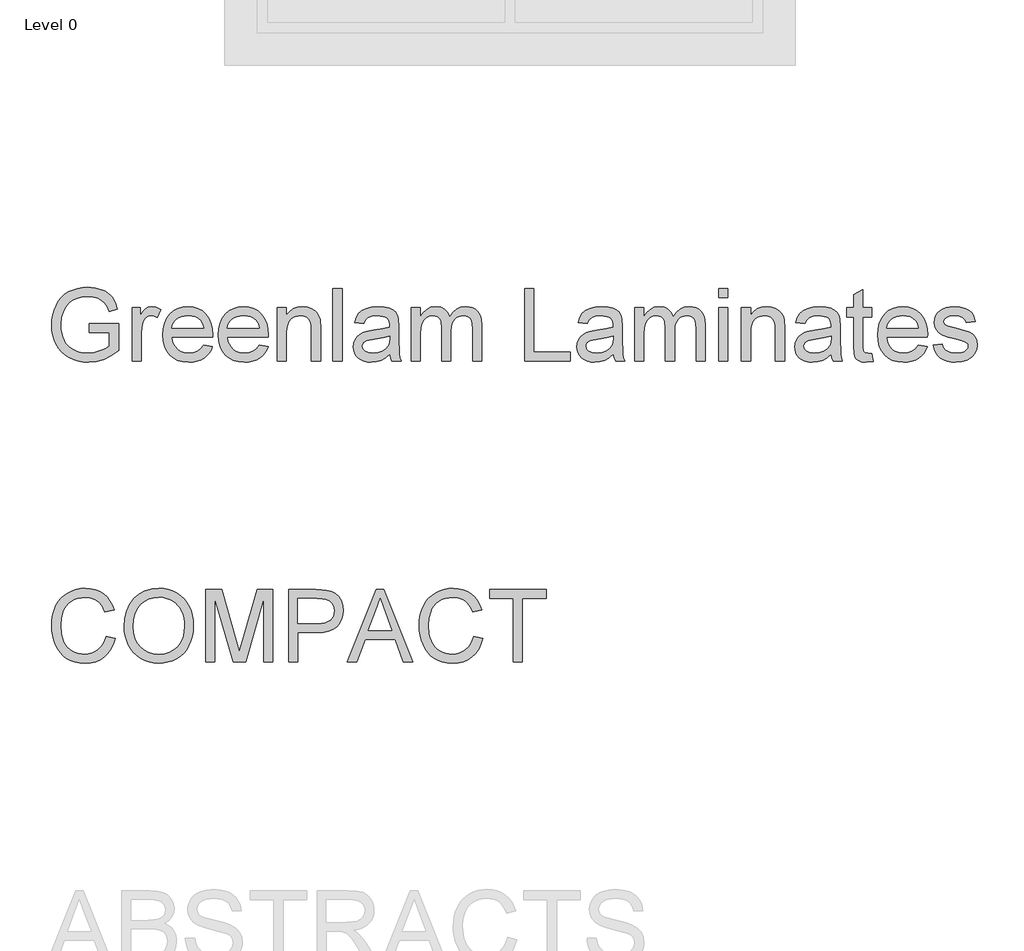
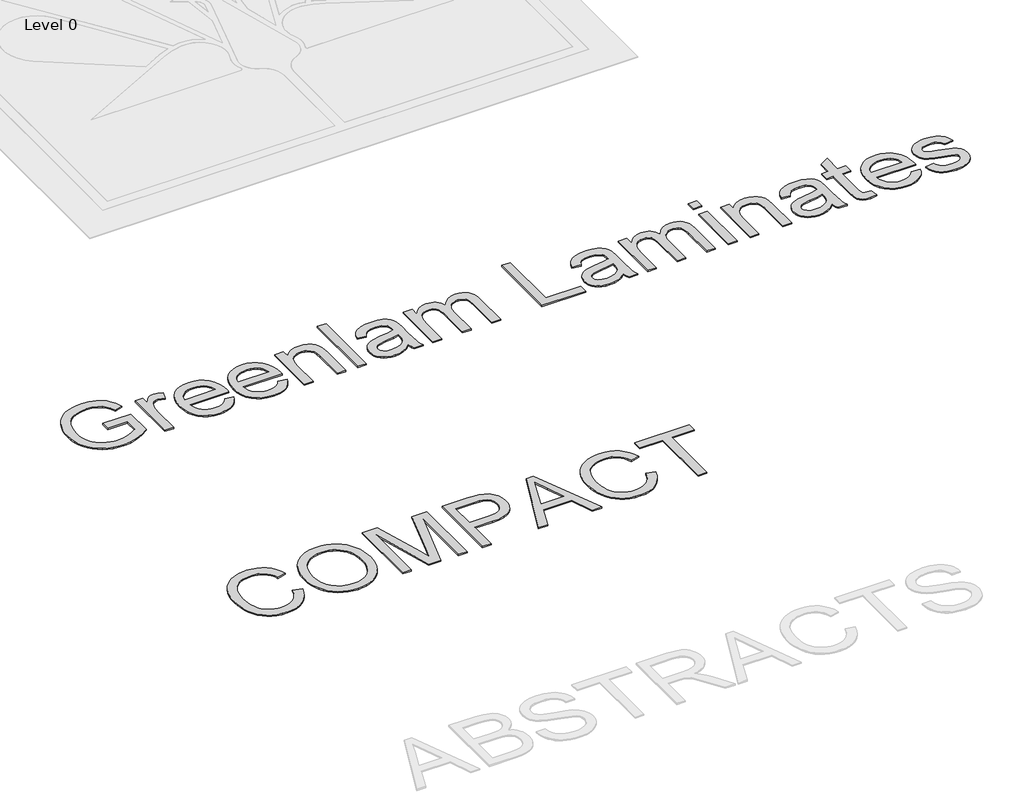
# One storey, part 8 of 8: 2 proxies.
"""IFC4 building model written with IfcOpenShell, lengths in millimetres."""

from ifc_helpers import new_model, si_unit, origin, origin_with_axes, place, context, project, spatial, polyline, outline, extrude, element, save

model = new_model("IFC4")

# Units and contexts
model_context = context("Model", 3, world=origin())
ifc_project = project(units=[si_unit("LENGTHUNIT", "METRE", prefix="MILLI")], contexts=[model_context])

# Site, building, storey
site = spatial("IfcSite", under=ifc_project)
building = spatial("IfcBuilding", under=site)
storey = spatial("IfcBuildingStorey", under=building, Name="Level 0", Elevation=0.0)

# Proxies
placement = place(None, origin())
element("IfcBuildingElementProxy", 1, Name="600mm Arial", ObjectType="600mm Arial", at=placement, inside=storey, context=model_context, shape_type="SweptSolid", body=[
    extrude(outline(polyline([(-10594.9298129, 2995.5724296), (-10594.9298129, 3070.9146622), (-10350.067557, 3070.9146622), (-10350.067557, 2845.6237284), (-10409.5724697, 2804.2370039), (-10470.9535806, 2774.5489269), (-10534.0637368, 2756.6698619), (-10598.7557857, 2750.7101736), (-10642.0325039, 2753.0784139), (-10683.2766741, 2760.183135), (-10722.4882962, 2772.0243367), (-10759.6673704, 2788.6020191), (-10793.6136815, 2809.6678618), (-10823.1270146, 2834.9735446), (-10848.2073696, 2864.5190673), (-10868.8547466, 2898.3044301), (-10884.9817735, 2935.2489794), (-10896.5010785, 2974.2720621), (-10903.4126615, 3015.373678), (-10905.7165225, 3058.5538272), (-10903.4218585, 3101.7385749), (-10896.5378667, 3143.4425975), (-10885.064547, 3183.6658952), (-10869.0018994, 3222.4084678), (-10848.6350324, 3257.9688612), (-10824.2490546, 3288.645621), (-10795.8439661, 3314.4387474), (-10763.4197667, 3335.3482403), (-10727.6800309, 3351.507457), (-10689.3283329, 3363.0497546), (-10648.3646727, 3369.9751331), (-10604.7890504, 3372.2835926), (-10542.7273578, 3366.9309096), (-10486.9196592, 3350.8728605), (-10462.0002525, 3339.1190308), (-10439.9227343, 3325.2682737), (-10420.6871045, 3309.3205892), (-10404.293363, 3291.2759773), (-10377.9346181, 3247.2588966), (-10358.749572, 3191.5799566), (-10428.2056927, 3172.0086345), (-10443.7119188, 3211.7214959), (-10462.5658711, 3241.6854844), (-10487.5082704, 3264.2734389), (-10521.2798375, 3281.8581982), (-10561.5445219, 3293.1705696), (-10605.9662728, 3296.94136), (-10657.9663928, 3292.876264), (-10702.4249319, 3280.6809758), (-10739.1763433, 3261.8822059), (-10768.0550799, 3238.0066644), (-10790.2199701, 3210.2867561), (-10806.8298422, 3179.9548856), (-10824.4881779, 3123.0803291), (-10830.3742899, 3061.6440359), (-10828.6038578, 3024.0235034), (-10823.2925615, 2989.5943472), (-10814.4404009, 2958.3565672), (-10802.0473762, 2930.3101636), (-10786.2744357, 2905.5609024), (-10767.2825277, 2884.2145496), (-10745.0716522, 2866.2711053), (-10719.6418093, 2851.7305695), (-10692.1840169, 2840.496373), (-10663.8892929, 2832.471947), (-10634.7576374, 2827.6572914), (-10604.7890504, 2826.0524062), (-10552.6049894, 2830.8900544), (-10501.7085154, 2845.4029992), (-10457.5074936, 2865.3973856), (-10425.4097896, 2886.679359), (-10425.4097896, 2995.5724296), (-10594.9298129, 2995.5724296)])), origin_with_axes(), (0.0, 0.0, 1.0), 10.0),
    extrude(outline(polyline([(-10237.054208, 2760.1279527), (-10237.054208, 3202.7635693), (-10171.1297545, 3202.7635693), (-10171.1297545, 3137.2805741), (-10146.7759664, 3175.245996), (-10124.3351647, 3197.6132213), (-10101.8207866, 3208.5393166), (-10077.2462693, 3212.1813483), (-10039.7223058, 3206.3688128), (-10001.6097311, 3188.9312062), (-10026.7728596, 3121.3880719), (-10053.2603632, 3132.9763548), (-10079.7478669, 3136.8391157), (-10102.2438509, 3133.1235076), (-10122.3486019, 3121.9766831), (-10138.590592, 3104.244771), (-10149.4982932, 3080.7738997), (-10158.6585549, 3038.6881994), (-10161.7119754, 2992.7765264), (-10161.7119754, 2760.1279527), (-10237.054208, 2760.1279527)])), origin_with_axes(), (0.0, 0.0, 1.0), 10.0),
    extrude(outline(polyline([(-9644.617043, 2891.9768597), (-9570.7463384, 2882.5590807), (-9582.0725053, 2852.9721712), (-9597.3626007, 2826.8985348), (-9616.6166246, 2804.3381714), (-9639.8345771, 2785.2910811), (-9666.7773347, 2770.1619341), (-9697.2057742, 2759.3554005), (-9731.1198956, 2752.8714803), (-9768.519699, 2750.7101736), (-9815.2683035, 2754.4395773), (-9856.9217424, 2765.6277885), (-9893.4800157, 2784.2748071), (-9924.9431233, 2810.3806332), (-9950.2442075, 2843.2186998), (-9968.3164106, 2882.06244), (-9979.1597324, 2926.9118537), (-9982.774173, 2977.766941), (-9979.1229442, 3030.3464752), (-9968.1692578, 3076.6904095), (-9949.9131138, 3116.798744), (-9924.3545121, 3150.6714788), (-9892.9741779, 3177.5820467), (-9857.2528362, 3196.8038809), (-9817.1904869, 3208.3369815), (-9772.7871301, 3212.1813483), (-9729.8139146, 3208.3461785), (-9690.9517803, 3196.8406691), (-9656.2007273, 3177.6648201), (-9625.5607557, 3150.8186315), (-9600.5493785, 3117.0194732), (-9582.6841091, 3076.9847151), (-9571.9649475, 3030.7143572), (-9568.3918936, 2978.2083994), (-9568.833352, 2957.9013133), (-9907.4319404, 2957.9013133), (-9903.0679402, 2927.8361572), (-9894.3905236, 2901.5050034), (-9881.3996907, 2878.9078519), (-9864.0954413, 2860.0447026), (-9843.4342688, 2845.1730729), (-9820.3726662, 2834.5504803), (-9794.9106336, 2828.1769247), (-9767.048171, 2826.0524062), (-9726.9490335, 2829.9887436), (-9693.1774664, 2841.7977556), (-9665.7334695, 2862.2152063), (-9644.617043, 2891.9768597)]), holes=[polyline([(-9907.4319404, 3033.2435459), (-9643.7341262, 3033.2435459), (-9653.9244575, 3073.0483778), (-9662.689246, 3088.7017567), (-9673.9004498, 3101.5224442), (-9694.4466593, 3116.973488), (-9717.82556, 3128.0099478), (-9744.0371522, 3134.6318238), (-9773.0814357, 3136.8391157), (-9799.5735379, 3135.0778807), (-9823.8675452, 3129.7941755), (-9845.9634575, 3120.9880003), (-9865.8612749, 3108.6593549), (-9882.558519, 3093.3784565), (-9895.0527112, 3075.7155222), (-9903.3438517, 3055.670552), (-9907.4319404, 3033.2435459)])]), origin_with_axes(), (0.0, 0.0, 1.0), 10.0),
    extrude(outline(polyline([(-9183.1458683, 2891.9768597), (-9109.2751636, 2882.5590807), (-9120.6013305, 2852.9721712), (-9135.891426, 2826.8985348), (-9155.1454499, 2804.3381714), (-9178.3634023, 2785.2910811), (-9205.3061599, 2770.1619341), (-9235.7345995, 2759.3554005), (-9269.6487209, 2752.8714803), (-9307.0485242, 2750.7101736), (-9353.7971288, 2754.4395773), (-9395.4505677, 2765.6277885), (-9432.0088409, 2784.2748071), (-9463.4719486, 2810.3806332), (-9488.7730328, 2843.2186998), (-9506.8452358, 2882.06244), (-9517.6885576, 2926.9118537), (-9521.3029982, 2977.766941), (-9517.6517694, 3030.3464752), (-9506.698083, 3076.6904095), (-9488.441939, 3116.798744), (-9462.8833374, 3150.6714788), (-9431.5030032, 3177.5820467), (-9395.7816615, 3196.8038809), (-9355.7193122, 3208.3369815), (-9311.3159554, 3212.1813483), (-9268.3427398, 3208.3461785), (-9229.4806055, 3196.8406691), (-9194.7295526, 3177.6648201), (-9164.0895809, 3150.8186315), (-9139.0782038, 3117.0194732), (-9121.2129344, 3076.9847151), (-9110.4937727, 3030.7143572), (-9106.9207189, 2978.2083994), (-9107.3621772, 2957.9013133), (-9445.9607656, 2957.9013133), (-9441.5967654, 2927.8361572), (-9432.9193489, 2901.5050034), (-9419.9285159, 2878.9078519), (-9402.6242666, 2860.0447026), (-9381.963094, 2845.1730729), (-9358.9014915, 2834.5504803), (-9333.4394589, 2828.1769247), (-9305.5769962, 2826.0524062), (-9265.4778588, 2829.9887436), (-9231.7062916, 2841.7977556), (-9204.2622948, 2862.2152063), (-9183.1458683, 2891.9768597)]), holes=[polyline([(-9445.9607656, 3033.2435459), (-9182.2629515, 3033.2435459), (-9192.4532827, 3073.0483778), (-9201.2180713, 3088.7017567), (-9212.4292751, 3101.5224442), (-9232.9754845, 3116.973488), (-9256.3543853, 3128.0099478), (-9282.5659775, 3134.6318238), (-9311.610261, 3136.8391157), (-9338.1023631, 3135.0778807), (-9362.3963704, 3129.7941755), (-9384.4922827, 3120.9880003), (-9404.3901002, 3108.6593549), (-9421.0873442, 3093.3784565), (-9433.5815365, 3075.7155222), (-9441.8726769, 3055.670552), (-9445.9607656, 3033.2435459)])]), origin_with_axes(), (0.0, 0.0, 1.0), 10.0),
    extrude(outline(polyline([(-9031.5784862, 2760.1279527), (-9031.5784862, 3202.7635693), (-8956.2362536, 3202.7635693), (-8956.2362536, 3140.9593941), (-8930.0614497, 3172.1189991), (-8898.6259332, 3194.3758598), (-8861.9297042, 3207.7299762), (-8819.9727626, 3212.1813483), (-8782.8350752, 3208.5944989), (-8748.8243847, 3197.8339505), (-8720.4606829, 3181.2424725), (-8700.2639614, 3160.1628342), (-8686.5603571, 3134.6502179), (-8677.6760069, 3104.7598058), (-8673.7028813, 3031.9191707), (-8673.7028813, 2760.1279527), (-8749.0451139, 2760.1279527), (-8749.0451139, 3021.7656276), (-8751.2156177, 3060.7243309), (-8757.727129, 3088.4258452), (-8769.7384762, 3108.2730788), (-8788.4084874, 3123.6689403), (-8812.3392112, 3133.5465719), (-8840.132696, 3136.8391157), (-8863.0103575, 3134.9905087), (-8884.2601413, 3129.4446876), (-8903.8820472, 3120.2016525), (-8921.8760753, 3107.2614033), (-8936.9086533, 3089.1524121), (-8947.646209, 3064.4031509), (-8954.0887425, 3033.0136196), (-8956.2362536, 2994.9838184), (-8956.2362536, 2760.1279527), (-9031.5784862, 2760.1279527)])), origin_with_axes(), (0.0, 0.0, 1.0), 10.0),
    extrude(outline(polyline([(-8570.1073115, 2760.1279527), (-8570.1073115, 3362.8658136), (-8494.7650789, 3362.8658136), (-8494.7650789, 2760.1279527), (-8570.1073115, 2760.1279527)])), origin_with_axes(), (0.0, 0.0, 1.0), 10.0),
    extrude(outline(polyline([(-8099.2183577, 2816.6346271), (-8135.2156109, 2785.7693277), (-8172.2797219, 2765.5726062), (-8211.2568193, 2754.4257817), (-8252.9930316, 2750.7101736), (-8286.5392711, 2752.9450567), (-8315.9560351, 2759.6497061), (-8341.2433238, 2770.8241217), (-8362.401137, 2786.4683035), (-8379.1075781, 2805.5889702), (-8391.0407503, 2827.1928404), (-8398.2006537, 2851.279914), (-8400.5872881, 2877.8501911), (-8396.9820446, 2909.0833725), (-8386.1663139, 2937.4470743), (-8369.4828654, 2961.727286), (-8348.2744684, 2980.709997), (-8323.3504632, 2995.0573948), (-8295.5201903, 3005.4316671), (-8230.3315007, 3016.7624325), (-8153.297011, 3028.6818092), (-8099.6598161, 3042.661325), (-8099.2183577, 3059.4367439), (-8104.4054938, 3093.0611583), (-8110.889414, 3105.5139638), (-8119.9669022, 3115.0605016), (-8135.6570693, 3124.5886453), (-8154.7685389, 3131.3944622), (-8203.2553859, 3136.8391157), (-8248.1369893, 3133.2154781), (-8279.4805353, 3122.3445651), (-8300.8544792, 3102.2398141), (-8315.8272764, 3070.9146622), (-8391.169509, 3080.3324413), (-8378.0913041, 3121.5352247), (-8358.5751643, 3153.9088403), (-8330.8000736, 3178.6672986), (-8292.9450163, 3197.0246101), (-8246.6470672, 3208.3921638), (-8193.5433012, 3212.1813483), (-8142.610039, 3208.8336222), (-8102.23499, 3198.7904437), (-8071.7927549, 3183.6888878), (-8050.6579343, 3165.1660294), (-8036.6416303, 3142.2653752), (-8027.554945, 3114.030432), (-8023.8761251, 3048.1059785), (-8023.8761251, 2954.3696461), (-8020.0501523, 2823.4772322), (-8014.3847696, 2791.1220108), (-8005.0405669, 2760.1279527), (-8080.3827995, 2760.1279527), (-8092.449329, 2786.3211507), (-8099.2183577, 2816.6346271)]), holes=[polyline([(-8099.2183577, 2967.3190924), (-8149.8389202, 2954.7743163), (-8220.7665689, 2944.2161031), (-8285.5873764, 2932.0024208), (-8302.4547659, 2923.6514995), (-8314.9443596, 2912.1367931), (-8322.6698815, 2898.3412183), (-8325.2450555, 2883.1476919), (-8319.6348551, 2860.7436784), (-8302.8042538, 2842.3863668), (-8275.1211337, 2830.1358964), (-8236.9533767, 2826.0524062), (-8196.4863572, 2830.5589606), (-8160.7282273, 2844.078624), (-8131.739126, 2863.999434), (-8111.5791927, 2887.7094286), (-8102.6396602, 2912.1367931), (-8099.6598161, 2945.9819366), (-8099.2183577, 2967.3190924)])]), origin_with_axes(), (0.0, 0.0, 1.0), 10.0),
    extrude(outline(polyline([(-7920.2805552, 2760.1279527), (-7920.2805552, 3202.7635693), (-7844.9383226, 3202.7635693), (-7844.9383226, 3129.9229342), (-7822.2767917, 3163.3818017), (-7793.1405377, 3189.5933938), (-7758.5228419, 3206.5343597), (-7719.4169858, 3212.1813483), (-7677.5152266, 3206.4239951), (-7659.6821469, 3199.2273036), (-7643.9276004, 3189.1519354), (-7618.8380484, 3161.5056035), (-7602.4305114, 3124.6254335), (-7574.9681204, 3162.9311462), (-7543.6429685, 3190.2923696), (-7508.4550557, 3206.7091037), (-7469.4043819, 3212.1813483), (-7439.2426568, 3209.9050785), (-7412.7689488, 3203.076269), (-7389.9832577, 3191.6949197), (-7370.8855836, 3175.7610308), (-7355.7886262, 3155.0906612), (-7345.0050853, 3129.4998699), (-7338.5349607, 3098.988657), (-7336.3782525, 3063.5570223), (-7336.3782525, 2760.1279527), (-7411.7204851, 2760.1279527), (-7411.7204851, 3031.1834067), (-7413.4679246, 3068.7625525), (-7418.710243, 3094.0912279), (-7428.5326923, 3111.436864), (-7444.0205243, 3125.0668919), (-7463.9413343, 3133.8960598), (-7487.0627177, 3136.8391157), (-7508.413669, 3134.9537205), (-7527.8792251, 3129.2975348), (-7545.4593859, 3119.8705587), (-7561.1541515, 3106.6727921), (-7574.062211, 3089.317959), (-7583.2822535, 3067.4197832), (-7588.814279, 3040.9782648), (-7590.6582875, 3009.9934038), (-7590.6582875, 2760.1279527), (-7666.0005201, 2760.1279527), (-7666.0005201, 3039.5711162), (-7670.3599218, 3082.1718512), (-7675.8091738, 3098.8920879), (-7683.4381267, 3112.5589041), (-7693.5502831, 3123.1814967), (-7706.4491455, 3130.7690628), (-7722.1347141, 3135.3216025), (-7740.6069888, 3136.8391157), (-7769.6328782, 3132.7924138), (-7796.3778992, 3120.6523079), (-7818.4508189, 3100.7131038), (-7833.4604044, 3073.269107), (-7842.068843, 3035.1933205), (-7844.9383226, 2983.3587473), (-7844.9383226, 2760.1279527), (-7920.2805552, 2760.1279527)])), origin_with_axes(), (0.0, 0.0, 1.0), 10.0),
    extrude(outline(polyline([(-6978.5026476, 2760.1279527), (-6978.5026476, 3362.8658136), (-6903.1604149, 3362.8658136), (-6903.1604149, 2835.4701853), (-6601.7914845, 2835.4701853), (-6601.7914845, 2760.1279527), (-6978.5026476, 2760.1279527)])), origin_with_axes(), (0.0, 0.0, 1.0), 10.0),
    extrude(outline(polyline([(-6243.9158796, 2816.6346271), (-6279.9131328, 2785.7693277), (-6316.9772438, 2765.5726062), (-6355.9543412, 2754.4257817), (-6397.6905536, 2750.7101736), (-6431.236793, 2752.9450567), (-6460.653557, 2759.6497061), (-6485.9408457, 2770.8241217), (-6507.0986589, 2786.4683035), (-6523.8051, 2805.5889702), (-6535.7382723, 2827.1928404), (-6542.8981756, 2851.279914), (-6545.28481, 2877.8501911), (-6541.6795665, 2909.0833725), (-6530.8638358, 2937.4470743), (-6514.1803873, 2961.727286), (-6492.9719903, 2980.709997), (-6468.0479852, 2995.0573948), (-6440.2177122, 3005.4316671), (-6375.0290227, 3016.7624325), (-6297.9945329, 3028.6818092), (-6244.357338, 3042.661325), (-6243.9158796, 3059.4367439), (-6249.1030157, 3093.0611583), (-6255.5869359, 3105.5139638), (-6264.6644241, 3115.0605016), (-6280.3545912, 3124.5886453), (-6299.4660609, 3131.3944622), (-6347.9529078, 3136.8391157), (-6392.8345112, 3133.2154781), (-6424.1780572, 3122.3445651), (-6445.5520011, 3102.2398141), (-6460.5247984, 3070.9146622), (-6535.867031, 3080.3324413), (-6522.788826, 3121.5352247), (-6503.2726862, 3153.9088403), (-6475.4975956, 3178.6672986), (-6437.6425383, 3197.0246101), (-6391.3445892, 3208.3921638), (-6338.2408232, 3212.1813483), (-6287.3075609, 3208.8336222), (-6246.932512, 3198.7904437), (-6216.4902768, 3183.6888878), (-6195.3554562, 3165.1660294), (-6181.3391522, 3142.2653752), (-6172.2524669, 3114.030432), (-6168.573647, 3048.1059785), (-6168.573647, 2954.3696461), (-6164.7476742, 2823.4772322), (-6159.0822915, 2791.1220108), (-6149.7380888, 2760.1279527), (-6225.0803214, 2760.1279527), (-6237.1468509, 2786.3211507), (-6243.9158796, 2816.6346271)]), holes=[polyline([(-6243.9158796, 2967.3190924), (-6294.5364421, 2954.7743163), (-6365.4640908, 2944.2161031), (-6430.2848983, 2932.0024208), (-6447.1522878, 2923.6514995), (-6459.6418816, 2912.1367931), (-6467.3674035, 2898.3412183), (-6469.9425774, 2883.1476919), (-6464.332377, 2860.7436784), (-6447.5017757, 2842.3863668), (-6419.8186556, 2830.1358964), (-6381.6508986, 2826.0524062), (-6341.1838791, 2830.5589606), (-6305.4257492, 2844.078624), (-6276.436648, 2863.999434), (-6256.2767146, 2887.7094286), (-6247.3371821, 2912.1367931), (-6244.357338, 2945.9819366), (-6243.9158796, 2967.3190924)])]), origin_with_axes(), (0.0, 0.0, 1.0), 10.0),
    extrude(outline(polyline([(-6064.9780771, 2760.1279527), (-6064.9780771, 3202.7635693), (-5989.6358445, 3202.7635693), (-5989.6358445, 3129.9229342), (-5966.9743136, 3163.3818017), (-5937.8380596, 3189.5933938), (-5903.2203639, 3206.5343597), (-5864.1145078, 3212.1813483), (-5822.2127485, 3206.4239951), (-5804.3796688, 3199.2273036), (-5788.6251224, 3189.1519354), (-5763.5355703, 3161.5056035), (-5747.1280333, 3124.6254335), (-5719.6656424, 3162.9311462), (-5688.3404905, 3190.2923696), (-5653.1525776, 3206.7091037), (-5614.1019038, 3212.1813483), (-5583.9401788, 3209.9050785), (-5557.4664707, 3203.076269), (-5534.6807796, 3191.6949197), (-5515.5831055, 3175.7610308), (-5500.4861482, 3155.0906612), (-5489.7026072, 3129.4998699), (-5483.2324826, 3098.988657), (-5481.0757744, 3063.5570223), (-5481.0757744, 2760.1279527), (-5556.418007, 2760.1279527), (-5556.418007, 3031.1834067), (-5558.1654465, 3068.7625525), (-5563.4077649, 3094.0912279), (-5573.2302142, 3111.436864), (-5588.7180462, 3125.0668919), (-5608.6388562, 3133.8960598), (-5631.7602396, 3136.8391157), (-5653.1111909, 3134.9537205), (-5672.576747, 3129.2975348), (-5690.1569078, 3119.8705587), (-5705.8516734, 3106.6727921), (-5718.759733, 3089.317959), (-5727.9797755, 3067.4197832), (-5733.511801, 3040.9782648), (-5735.3558095, 3009.9934038), (-5735.3558095, 2760.1279527), (-5810.6980421, 2760.1279527), (-5810.6980421, 3039.5711162), (-5815.0574437, 3082.1718512), (-5820.5066958, 3098.8920879), (-5828.1356486, 3112.5589041), (-5838.247805, 3123.1814967), (-5851.1466674, 3130.7690628), (-5866.832236, 3135.3216025), (-5885.3045107, 3136.8391157), (-5914.3304001, 3132.7924138), (-5941.0754212, 3120.6523079), (-5963.1483409, 3100.7131038), (-5978.1579263, 3073.269107), (-5986.766365, 3035.1933205), (-5989.6358445, 2983.3587473), (-5989.6358445, 2760.1279527), (-6064.9780771, 2760.1279527)])), origin_with_axes(), (0.0, 0.0, 1.0), 10.0),
    extrude(outline(polyline([(-5368.0624255, 3287.523581), (-5368.0624255, 3362.8658136), (-5292.7201929, 3362.8658136), (-5292.7201929, 3287.523581), (-5368.0624255, 3287.523581)])), origin_with_axes(), (0.0, 0.0, 1.0), 10.0),
    extrude(outline(polyline([(-5368.0624255, 2760.1279527), (-5368.0624255, 3202.7635693), (-5292.7201929, 3202.7635693), (-5292.7201929, 2760.1279527), (-5368.0624255, 2760.1279527)])), origin_with_axes(), (0.0, 0.0, 1.0), 10.0),
    extrude(outline(polyline([(-5179.7068439, 2760.1279527), (-5179.7068439, 3202.7635693), (-5104.3646113, 3202.7635693), (-5104.3646113, 3140.9593941), (-5078.1898074, 3172.1189991), (-5046.7542909, 3194.3758598), (-5010.0580619, 3207.7299762), (-4968.1011203, 3212.1813483), (-4930.9634329, 3208.5944989), (-4896.9527424, 3197.8339505), (-4868.5890406, 3181.2424725), (-4848.3923191, 3160.1628342), (-4834.6887148, 3134.6502179), (-4825.8043646, 3104.7598058), (-4821.831239, 3031.9191707), (-4821.831239, 2760.1279527), (-4897.1734716, 2760.1279527), (-4897.1734716, 3021.7656276), (-4899.3439754, 3060.7243309), (-4905.8554867, 3088.4258452), (-4917.8668339, 3108.2730788), (-4936.5368451, 3123.6689403), (-4960.4675689, 3133.5465719), (-4988.2610537, 3136.8391157), (-5011.1387152, 3134.9905087), (-5032.388499, 3129.4446876), (-5052.0104049, 3120.2016525), (-5070.004433, 3107.2614033), (-5085.037011, 3089.1524121), (-5095.7745667, 3064.4031509), (-5102.2171002, 3033.0136196), (-5104.3646113, 2994.9838184), (-5104.3646113, 2760.1279527), (-5179.7068439, 2760.1279527)])), origin_with_axes(), (0.0, 0.0, 1.0), 10.0),
    extrude(outline(polyline([(-4435.7022969, 2816.6346271), (-4471.6995501, 2785.7693277), (-4508.7636611, 2765.5726062), (-4547.7407585, 2754.4257817), (-4589.4769709, 2750.7101736), (-4623.0232103, 2752.9450567), (-4652.4399744, 2759.6497061), (-4677.727263, 2770.8241217), (-4698.8850762, 2786.4683035), (-4715.5915174, 2805.5889702), (-4727.5246896, 2827.1928404), (-4734.6845929, 2851.279914), (-4737.0712273, 2877.8501911), (-4733.4659838, 2909.0833725), (-4722.6502531, 2937.4470743), (-4705.9668047, 2961.727286), (-4684.7584076, 2980.709997), (-4659.8344025, 2995.0573948), (-4632.0041295, 3005.4316671), (-4566.81544, 3016.7624325), (-4489.7809502, 3028.6818092), (-4436.1437553, 3042.661325), (-4435.7022969, 3059.4367439), (-4440.889433, 3093.0611583), (-4447.3733532, 3105.5139638), (-4456.4508414, 3115.0605016), (-4472.1410085, 3124.5886453), (-4491.2524782, 3131.3944622), (-4539.7393251, 3136.8391157), (-4584.6209285, 3133.2154781), (-4615.9644745, 3122.3445651), (-4637.3384185, 3102.2398141), (-4652.3112157, 3070.9146622), (-4727.6534483, 3080.3324413), (-4714.5752433, 3121.5352247), (-4695.0591035, 3153.9088403), (-4667.2840129, 3178.6672986), (-4629.4289556, 3197.0246101), (-4583.1310065, 3208.3921638), (-4530.0272405, 3212.1813483), (-4479.0939782, 3208.8336222), (-4438.7189293, 3198.7904437), (-4408.2766942, 3183.6888878), (-4387.1418735, 3165.1660294), (-4373.1255695, 3142.2653752), (-4364.0388842, 3114.030432), (-4360.3600643, 3048.1059785), (-4360.3600643, 2954.3696461), (-4356.5340915, 2823.4772322), (-4350.8687088, 2791.1220108), (-4341.5245061, 2760.1279527), (-4416.8667387, 2760.1279527), (-4428.9332682, 2786.3211507), (-4435.7022969, 2816.6346271)]), holes=[polyline([(-4435.7022969, 2967.3190924), (-4486.3228594, 2954.7743163), (-4557.2505081, 2944.2161031), (-4622.0713157, 2932.0024208), (-4638.9387051, 2923.6514995), (-4651.4282989, 2912.1367931), (-4659.1538208, 2898.3412183), (-4661.7289947, 2883.1476919), (-4656.1187943, 2860.7436784), (-4639.288193, 2842.3863668), (-4611.6050729, 2830.1358964), (-4573.4373159, 2826.0524062), (-4532.9702964, 2830.5589606), (-4497.2121665, 2844.078624), (-4468.2230653, 2863.999434), (-4448.0631319, 2887.7094286), (-4439.1235995, 2912.1367931), (-4436.1437553, 2945.9819366), (-4435.7022969, 2967.3190924)])]), origin_with_axes(), (0.0, 0.0, 1.0), 10.0),
    extrude(outline(polyline([(-4096.6622501, 2822.9621974), (-4087.2444711, 2757.9206607), (-4143.6039927, 2750.7101736), (-4179.7667929, 2753.8371706), (-4206.7325431, 2763.2181614), (-4225.7888304, 2777.6759238), (-4238.2232419, 2796.0332354), (-4245.065847, 2827.5607224), (-4247.3467154, 2881.5290111), (-4247.3467154, 3127.4213367), (-4303.8533898, 3127.4213367), (-4303.8533898, 3202.7635693), (-4247.3467154, 3202.7635693), (-4247.3467154, 3310.3322647), (-4172.0044828, 3354.6252569), (-4172.0044828, 3202.7635693), (-4096.6622501, 3202.7635693), (-4096.6622501, 3127.4213367), (-4172.0044828, 3127.4213367), (-4172.0044828, 2883.7363031), (-4168.0313572, 2844.8879644), (-4155.1554874, 2831.1291777), (-4144.2845744, 2827.3215991), (-4129.4773241, 2826.0524062), (-4096.6622501, 2822.9621974)])), origin_with_axes(), (0.0, 0.0, 1.0), 10.0),
    extrude(outline(polyline([(-3711.4162248, 2891.9768597), (-3637.5455202, 2882.5590807), (-3648.8716871, 2852.9721712), (-3664.1617825, 2826.8985348), (-3683.4158064, 2804.3381714), (-3706.6337589, 2785.2910811), (-3733.5765165, 2770.1619341), (-3764.004956, 2759.3554005), (-3797.9190774, 2752.8714803), (-3835.3188808, 2750.7101736), (-3882.0674853, 2754.4395773), (-3923.7209242, 2765.6277885), (-3960.2791975, 2784.2748071), (-3991.7423051, 2810.3806332), (-4017.0433893, 2843.2186998), (-4035.1155923, 2882.06244), (-4045.9589142, 2926.9118537), (-4049.5733548, 2977.766941), (-4045.922126, 3030.3464752), (-4034.9684396, 3076.6904095), (-4016.7122955, 3116.798744), (-3991.1536939, 3150.6714788), (-3959.7733597, 3177.5820467), (-3924.052018, 3196.8038809), (-3883.9896687, 3208.3369815), (-3839.5863119, 3212.1813483), (-3796.6130964, 3208.3461785), (-3757.7509621, 3196.8406691), (-3722.9999091, 3177.6648201), (-3692.3599374, 3150.8186315), (-3667.3485603, 3117.0194732), (-3649.4832909, 3076.9847151), (-3638.7641293, 3030.7143572), (-3635.1910754, 2978.2083994), (-3635.6325338, 2957.9013133), (-3974.2311221, 2957.9013133), (-3969.867122, 2927.8361572), (-3961.1897054, 2901.5050034), (-3948.1988725, 2878.9078519), (-3930.8946231, 2860.0447026), (-3910.2334506, 2845.1730729), (-3887.171848, 2834.5504803), (-3861.7098154, 2828.1769247), (-3833.8473528, 2826.0524062), (-3793.7482153, 2829.9887436), (-3759.9766482, 2841.7977556), (-3732.5326513, 2862.2152063), (-3711.4162248, 2891.9768597)]), holes=[polyline([(-3974.2311221, 3033.2435459), (-3710.533308, 3033.2435459), (-3720.7236393, 3073.0483778), (-3729.4884278, 3088.7017567), (-3740.6996316, 3101.5224442), (-3761.245841, 3116.973488), (-3784.6247418, 3128.0099478), (-3810.836334, 3134.6318238), (-3839.8806175, 3136.8391157), (-3866.3727197, 3135.0778807), (-3890.6667269, 3129.7941755), (-3912.7626393, 3120.9880003), (-3932.6604567, 3108.6593549), (-3949.3577007, 3093.3784565), (-3961.851893, 3075.7155222), (-3970.1430335, 3055.670552), (-3974.2311221, 3033.2435459)])]), origin_with_axes(), (0.0, 0.0, 1.0), 10.0),
    extrude(outline(polyline([(-3588.10218, 2891.9768597), (-3512.7599474, 2901.3946388), (-3508.2074077, 2884.2145496), (-3500.877359, 2869.168176), (-3490.7698011, 2856.255518), (-3477.8847343, 2845.4765756), (-3462.1853701, 2836.9785015), (-3443.6349205, 2830.9084485), (-3397.9807649, 2826.0524062), (-3352.8784323, 2830.5037783), (-3335.3488552, 2836.0679935), (-3321.1670043, 2843.8578948), (-3302.4050226, 2863.2084877), (-3297.7145271, 2874.0426125), (-3296.1510286, 2885.6492894), (-3297.7237242, 2895.8212266), (-3302.4418108, 2904.8527296), (-3321.3141571, 2919.494433), (-3349.5307061, 2929.0593649), (-3398.8636817, 2940.9787415), (-3467.6208266, 2960.8627633), (-3512.318489, 2977.8405174), (-3541.0316787, 2996.3633759), (-3561.8354056, 3020.8827109), (-3574.4721521, 3049.8350239), (-3578.6844009, 3081.6568165), (-3575.2998866, 3110.8482528), (-3565.1463435, 3137.7956089), (-3549.1434767, 3161.4320271), (-3528.2109912, 3180.6906496), (-3507.4072644, 3192.8123613), (-3480.3127554, 3202.9842985), (-3448.9876035, 3209.8820859), (-3415.4919479, 3212.1813483), (-3366.4532779, 3208.4841343), (-3323.8157547, 3197.3924921), (-3289.5291527, 3179.9916738), (-3265.5432466, 3157.3669311), (-3249.6507444, 3127.844401), (-3239.6443542, 3089.7502203), (-3314.9865868, 3080.3324413), (-3324.4963364, 3104.0424359), (-3343.3135004, 3121.9031067), (-3371.6220199, 3133.1051135), (-3409.605836, 3136.8391157), (-3452.8687586, 3133.2706604), (-3481.710707, 3122.5652943), (-3497.934303, 3107.1142505), (-3503.3421683, 3089.308762), (-3501.0980882, 3077.7204791), (-3494.3658476, 3067.382995), (-3482.8511412, 3058.149157), (-3466.2596632, 3050.7547289), (-3401.3652793, 3034.7150739), (-3290.7799515, 2999.2512495), (-3261.5701211, 2982.2918896), (-3239.423625, 2959.0785357), (-3225.4625033, 2929.5376115), (-3220.808796, 2893.5955405), (-3226.2718437, 2856.439459), (-3242.6609865, 2821.4906695), (-3269.3508253, 2791.4898928), (-3305.7159605, 2769.1778498), (-3349.6410707, 2755.3270926), (-3399.0108345, 2750.7101736), (-3439.5606274, 2752.9358597), (-3474.9784665, 2759.6129179), (-3505.2643517, 2770.7413482), (-3530.4182832, 2786.3211507), (-3550.9644926, 2806.278749), (-3567.4272119, 2830.5405665), (-3579.806441, 2859.1066035), (-3588.10218, 2891.9768597)])), origin_with_axes(), (0.0, 0.0, 1.0), 10.0),
])
element("IfcBuildingElementProxy", 2, Name="600mm Arial", ObjectType="600mm Arial", at=placement, inside=storey, context=model_context, shape_type="SweptSolid", body=[
    extrude(outline(polyline([(-10453.6631268, 474.3824267), (-10378.3208942, 454.9582573), (-10393.229312, 408.1038867), (-10413.0857427, 367.1632192), (-10437.8901863, 332.1362547), (-10467.6426426, 303.0229933), (-10501.6717272, 280.1361347), (-10539.3060553, 263.7883785), (-10580.5456269, 253.9797248), (-10625.3904421, 250.7101736), (-10671.3343048, 253.18418), (-10712.7808101, 260.6061993), (-10749.729958, 272.9762314), (-10782.1817485, 290.2942763), (-10810.5822385, 312.3028166), (-10835.377485, 338.744335), (-10856.5674879, 369.6188315), (-10874.1522473, 404.926306), (-10887.9616177, 443.1400482), (-10897.8254537, 482.733348), (-10903.7437553, 523.7062052), (-10905.7165225, 566.0586199), (-10903.4862379, 611.5012433), (-10896.7953841, 653.9456285), (-10885.6439611, 693.3917754), (-10870.0319689, 729.8396841), (-10850.3088955, 762.6869478), (-10826.8242286, 791.3311596), (-10799.5779683, 815.7723197), (-10768.5701147, 836.0104279), (-10734.8537298, 851.8799375), (-10699.481876, 863.2153015), (-10662.4545532, 870.0165199), (-10623.7717614, 872.2835926), (-10580.6789842, 869.3497337), (-10541.1638594, 860.548157), (-10505.2263869, 845.8788624), (-10472.8665669, 825.3418501), (-10444.6178282, 799.4797458), (-10421.0135997, 768.8351756), (-10402.0538814, 733.4081395), (-10387.7386733, 693.1986374), (-10463.0809059, 675.245996), (-10474.9451002, 704.8742922), (-10489.2005275, 730.189172), (-10505.8471878, 751.1906354), (-10524.8850811, 767.8786824), (-10546.4245719, 780.5936039), (-10570.5760249, 789.6756906), (-10597.33944, 795.1249427), (-10626.7148173, 796.94136), (-10660.5139756, 794.9272061), (-10691.4252603, 788.8847443), (-10719.4486713, 778.8139747), (-10744.5842086, 764.7148973), (-10766.514574, 747.2221084), (-10784.9224694, 726.9702046), (-10799.8078946, 703.9591858), (-10811.1708497, 678.189052), (-10825.5734298, 623.0435409), (-10830.3742899, 566.2057727), (-10824.690513, 496.6024992), (-10817.585792, 465.3325296), (-10807.6391826, 436.4170048), (-10794.6897363, 410.4307403), (-10778.5765049, 387.9485519), (-10759.2994884, 368.9704395), (-10736.8586867, 353.496403), (-10712.3439502, 341.4896544), (-10686.8451294, 332.9134054), (-10660.3622243, 327.767656), (-10632.8952348, 326.0524062), (-10600.1399417, 328.3884569), (-10570.0058078, 335.3966089), (-10542.4928331, 347.0768622), (-10517.6010176, 363.4292169), (-10495.9189725, 384.3800965), (-10478.035309, 409.8559247), (-10463.9500271, 439.8567014), (-10453.6631268, 474.3824267)])), origin_with_axes(), (0.0, 0.0, 1.0), 10.0),
    extrude(outline(polyline([(-10302.9786616, 553.550632), (-10297.9570723, 624.2483544), (-10282.8923046, 686.8342789), (-10257.7843585, 741.3084053), (-10241.4641935, 765.5035443), (-10222.6332338, 787.6707338), (-10179.5450551, 824.6888595), (-10130.6259468, 851.1303779), (-10075.8759089, 866.995289), (-10015.2949413, 872.2835926), (-9974.7451484, 869.8003892), (-9936.2371006, 862.3507788), (-9899.7707978, 849.9347614), (-9865.3462401, 832.5523372), (-9833.9291177, 810.7277378), (-9806.4851209, 784.9851952), (-9783.0142496, 755.3247093), (-9763.5165038, 721.7462802), (-9748.1942187, 685.013263), (-9737.2497294, 645.8890128), (-9730.6830358, 604.3735297), (-9728.4941379, 560.4668135), (-9730.7979989, 515.9806833), (-9737.7095819, 473.9041801), (-9749.2288869, 434.2373039), (-9765.3559138, 396.9800549), (-9785.7089852, 363.1165172), (-9809.9064234, 333.6307753), (-9837.9482285, 308.5228291), (-9869.8344005, 287.7926787), (-9904.3095419, 271.5690827), (-9940.1182556, 259.9807999), (-9977.2605416, 253.0278302), (-10015.7363997, 250.7101736), (-10056.9943655, 253.271552), (-10096.0082511, 260.9556872), (-10132.7780565, 273.7625791), (-10167.3037818, 291.6922279), (-10198.6841159, 314.0502561), (-10226.0177482, 340.1422866), (-10249.3046785, 369.9683194), (-10268.5449068, 403.5283544), (-10283.6096745, 439.4750238), (-10294.3702229, 476.4609599), (-10300.8265519, 514.4861627), (-10302.9786616, 553.550632)]), holes=[polyline([(-10227.636429, 552.814868), (-10223.870237, 502.8656901), (-10212.5716613, 458.5267127), (-10193.7407016, 419.7979356), (-10167.3773582, 386.679359), (-10135.3302378, 360.1550672), (-10099.4479477, 341.2091444), (-10059.7304878, 329.8415908), (-10016.1778581, 326.0524062), (-9971.8802674, 329.878379), (-9931.6937579, 341.3562972), (-9895.6183298, 360.486161), (-9863.6539829, 387.2679702), (-9837.4837775, 421.0855226), (-9818.7907736, 461.3226158), (-9807.5749713, 507.9792499), (-9803.8363705, 561.0554247), (-9805.4366572, 595.5351647), (-9810.2375172, 627.7524305), (-9818.2389506, 657.7072219), (-9829.4409574, 685.3995391), (-9843.7193773, 710.4660985), (-9860.9500503, 732.5436168), (-9881.1329762, 751.6320938), (-9904.2681552, 767.7315296), (-9929.6382173, 780.5108304), (-9956.5257926, 789.6389024), (-9984.9308812, 795.1157456), (-10014.853483, 796.94136), (-10056.8931979, 793.4234885), (-10095.8978865, 782.8698737), (-10131.8675486, 765.2805158), (-10164.8021842, 740.6554148), (-10192.2921663, 707.8081511), (-10211.9278678, 665.5523055), (-10223.7092887, 613.8878778), (-10227.636429, 552.814868)])]), origin_with_axes(), (0.0, 0.0, 1.0), 10.0),
    extrude(outline(polyline([(-9624.8985681, 260.1279527), (-9624.8985681, 862.8658136), (-9495.256953, 862.8658136), (-9371.9429082, 438.0356855), (-9347.0740853, 349.3025483), (-9320.1451233, 445.3933254), (-9198.8912176, 862.8658136), (-9069.2496025, 862.8658136), (-9069.2496025, 260.1279527), (-9144.5918352, 260.1279527), (-9144.5918352, 787.523581), (-9296.0120644, 260.1279527), (-9398.1361062, 260.1279527), (-9549.5563355, 787.523581), (-9549.5563355, 260.1279527), (-9624.8985681, 260.1279527)])), origin_with_axes(), (0.0, 0.0, 1.0), 10.0),
    extrude(outline(polyline([(-8937.4006955, 260.1279527), (-8937.4006955, 862.8658136), (-8714.022748, 862.8658136), (-8662.0042339, 861.4310738), (-8623.9652356, 857.1268544), (-8583.8109158, 846.4030943), (-8550.7567185, 828.9470936), (-8524.1404562, 803.9679061), (-8503.2999412, 770.6745856), (-8489.8354601, 731.4031826), (-8485.3472998, 688.4897479), (-8488.3777277, 651.4900162), (-8497.4690115, 617.4517346), (-8512.6211512, 586.374903), (-8533.8341468, 558.2595216), (-8562.9566052, 534.9541972), (-8601.8371336, 518.3075369), (-8650.4757319, 508.3195407), (-8708.8724001, 504.9902087), (-8862.0584629, 504.9902087), (-8862.0584629, 260.1279527), (-8937.4006955, 260.1279527)]), holes=[polyline([(-8862.0584629, 580.3324413), (-8704.4578161, 580.3324413), (-8668.2214396, 582.0614867), (-8637.6504458, 587.2486228), (-8612.7448347, 595.8938497), (-8593.5046064, 607.9971673), (-8579.1480115, 623.236679), (-8568.8933009, 641.2904879), (-8562.7404745, 662.1585941), (-8560.6895324, 685.8409975), (-8565.5271807, 719.686141), (-8580.0401254, 748.2337839), (-8602.4257448, 769.7180924), (-8630.8814171, 782.373233), (-8659.9440947, 786.235994), (-8706.2236497, 787.523581), (-8862.0584629, 787.523581), (-8862.0584629, 580.3324413)])]), origin_with_axes(), (0.0, 0.0, 1.0), 10.0),
    extrude(outline(polyline([(-8451.9436146, 260.1279527), (-8211.3487898, 862.8658136), (-8147.1901698, 862.8658136), (-7906.595345, 260.1279527), (-7986.2050087, 260.1279527), (-8055.219671, 448.4835342), (-8303.4664414, 448.4835342), (-8372.3339509, 260.1279527), (-8451.9436146, 260.1279527)]), holes=[polyline([(-8275.8017154, 523.8257668), (-8082.7372443, 523.8257668), (-8137.0366268, 672.0086345), (-8179.2694798, 787.523581), (-8216.7934433, 684.9580807), (-8275.8017154, 523.8257668)])]), origin_with_axes(), (0.0, 0.0, 1.0), 10.0),
    extrude(outline(polyline([(-7402.302706, 474.3824267), (-7326.9604734, 454.9582573), (-7341.8688912, 408.1038867), (-7361.7253219, 367.1632192), (-7386.5297655, 332.1362547), (-7416.2822218, 303.0229933), (-7450.3113064, 280.1361347), (-7487.9456345, 263.7883785), (-7529.1852061, 253.9797248), (-7574.0300214, 250.7101736), (-7619.973884, 253.18418), (-7661.4203893, 260.6061993), (-7698.3695372, 272.9762314), (-7730.8213277, 290.2942763), (-7759.2218177, 312.3028166), (-7784.0170642, 338.744335), (-7805.2070671, 369.6188315), (-7822.7918265, 404.926306), (-7836.6011969, 443.1400482), (-7846.4650329, 482.733348), (-7852.3833345, 523.7062052), (-7854.3561017, 566.0586199), (-7852.1258171, 611.5012433), (-7845.4349633, 653.9456285), (-7834.2835403, 693.3917754), (-7818.6715481, 729.8396841), (-7798.9484747, 762.6869478), (-7775.4638078, 791.3311596), (-7748.2175475, 815.7723197), (-7717.2096939, 836.0104279), (-7683.493309, 851.8799375), (-7648.1214552, 863.2153015), (-7611.0941324, 870.0165199), (-7572.4113406, 872.2835926), (-7529.3185634, 869.3497337), (-7489.8034386, 860.548157), (-7453.8659662, 845.8788624), (-7421.5061462, 825.3418501), (-7393.2574074, 799.4797458), (-7369.6531789, 768.8351756), (-7350.6934606, 733.4081395), (-7336.3782525, 693.1986374), (-7411.7204851, 675.245996), (-7423.5846794, 704.8742922), (-7437.8401067, 730.189172), (-7454.486767, 751.1906354), (-7473.5246603, 767.8786824), (-7495.0641511, 780.5936039), (-7519.2156041, 789.6756906), (-7545.9790192, 795.1249427), (-7575.3543965, 796.94136), (-7609.1535548, 794.9272061), (-7640.0648395, 788.8847443), (-7668.0882505, 778.8139747), (-7693.2237878, 764.7148973), (-7715.1541532, 747.2221084), (-7733.5620486, 726.9702046), (-7748.4474738, 703.9591858), (-7759.8104289, 678.189052), (-7774.213009, 623.0435409), (-7779.0138691, 566.2057727), (-7773.3300922, 496.6024992), (-7766.2253712, 465.3325296), (-7756.2787618, 436.4170048), (-7743.3293155, 410.4307403), (-7727.2160841, 387.9485519), (-7707.9390676, 368.9704395), (-7685.4982659, 353.496403), (-7660.9835294, 341.4896544), (-7635.4847086, 332.9134054), (-7609.0018035, 327.767656), (-7581.5348141, 326.0524062), (-7548.7795209, 328.3884569), (-7518.645387, 335.3966089), (-7491.1324123, 347.0768622), (-7466.2405968, 363.4292169), (-7444.5585517, 384.3800965), (-7426.6748882, 409.8559247), (-7412.5896063, 439.8567014), (-7402.302706, 474.3824267)])), origin_with_axes(), (0.0, 0.0, 1.0), 10.0),
    extrude(outline(polyline([(-7072.6804383, 260.1279527), (-7072.6804383, 787.523581), (-7270.4537989, 787.523581), (-7270.4537989, 862.8658136), (-6799.5648451, 862.8658136), (-6799.5648451, 787.523581), (-6997.3382057, 787.523581), (-6997.3382057, 260.1279527), (-7072.6804383, 260.1279527)])), origin_with_axes(), (0.0, 0.0, 1.0), 10.0),
])

save(model, "model.ifc")
